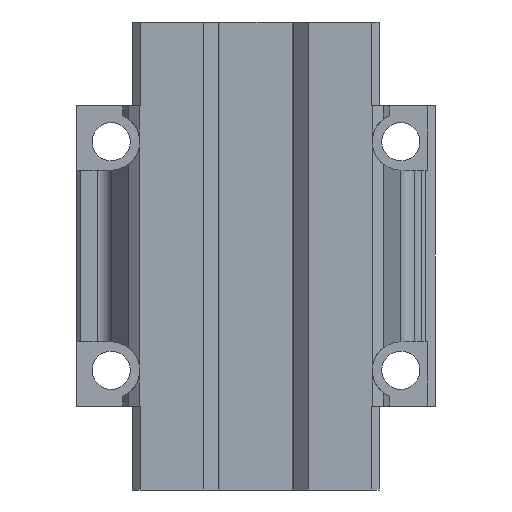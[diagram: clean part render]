
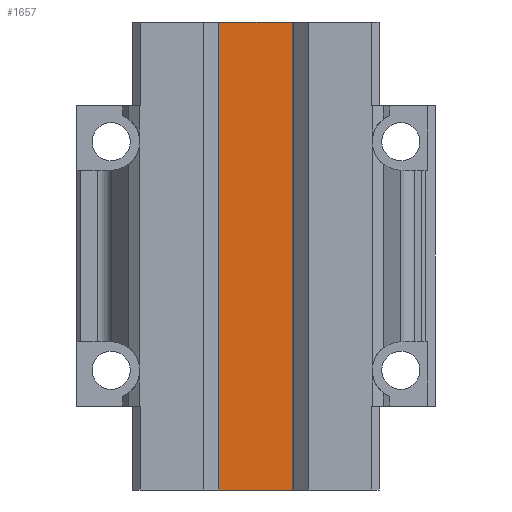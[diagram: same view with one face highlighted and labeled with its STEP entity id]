
A CAD part, front view. The second image highlights one B-rep face of the part: STEP entity #1657.
In plain terms, the highlighted planar face has unit normal (0, -1, 0).
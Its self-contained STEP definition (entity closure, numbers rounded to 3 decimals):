
#207 = EDGE_LOOP ( 'NONE', ( #5720, #2297, #1425, #2500 ) ) ;
#706 = CARTESIAN_POINT ( 'NONE',  ( -5.049, 0., 30.7 ) ) ;
#1242 = CARTESIAN_POINT ( 'NONE',  ( 5.049, 0., 30.7 ) ) ;
#1425 = ORIENTED_EDGE ( 'NONE', *, *, #6396, .F. ) ;
#1657 = ADVANCED_FACE ( 'NONE', ( #4747 ), #5724, .F. ) ;
#1771 = LINE ( 'NONE', #6991, #1945 ) ;
#1777 = DIRECTION ( 'NONE',  ( 0., 0., -1. ) ) ;
#1945 = VECTOR ( 'NONE', #2130, 1000. ) ;
#2130 = DIRECTION ( 'NONE',  ( 0., 0., -1. ) ) ;
#2297 = ORIENTED_EDGE ( 'NONE', *, *, #3711, .T. ) ;
#2368 = EDGE_CURVE ( 'NONE', #3878, #4891, #5505, .T. ) ;
#2462 = VECTOR ( 'NONE', #6899, 1000. ) ;
#2500 = ORIENTED_EDGE ( 'NONE', *, *, #2368, .F. ) ;
#2523 = EDGE_CURVE ( 'NONE', #3878, #3075, #1771, .T. ) ;
#2701 = LINE ( 'NONE', #3247, #3980 ) ;
#2951 = LINE ( 'NONE', #1242, #5653 ) ;
#2952 = CARTESIAN_POINT ( 'NONE',  ( -5.049, 0., 30.7 ) ) ;
#3075 = VERTEX_POINT ( 'NONE', #3599 ) ;
#3124 = CARTESIAN_POINT ( 'NONE',  ( 0., 0., 30.7 ) ) ;
#3247 = CARTESIAN_POINT ( 'NONE',  ( -5.049, 0., -30.7 ) ) ;
#3502 = AXIS2_PLACEMENT_3D ( 'NONE', #2952, #4994, #5773 ) ;
#3587 = CARTESIAN_POINT ( 'NONE',  ( 5.049, 0., 30.7 ) ) ;
#3599 = CARTESIAN_POINT ( 'NONE',  ( -5.049, 0., -30.7 ) ) ;
#3711 = EDGE_CURVE ( 'NONE', #3075, #4236, #2701, .T. ) ;
#3878 = VERTEX_POINT ( 'NONE', #706 ) ;
#3980 = VECTOR ( 'NONE', #6493, 1000. ) ;
#4236 = VERTEX_POINT ( 'NONE', #6657 ) ;
#4747 = FACE_OUTER_BOUND ( 'NONE', #207, .T. ) ;
#4891 = VERTEX_POINT ( 'NONE', #3587 ) ;
#4994 = DIRECTION ( 'NONE',  ( 0., 1., 0. ) ) ;
#5505 = LINE ( 'NONE', #3124, #2462 ) ;
#5653 = VECTOR ( 'NONE', #1777, 1000. ) ;
#5720 = ORIENTED_EDGE ( 'NONE', *, *, #2523, .T. ) ;
#5724 = PLANE ( 'NONE',  #3502 ) ;
#5773 = DIRECTION ( 'NONE',  ( -1., 0., 0. ) ) ;
#6396 = EDGE_CURVE ( 'NONE', #4891, #4236, #2951, .T. ) ;
#6493 = DIRECTION ( 'NONE',  ( 1., 0., 0. ) ) ;
#6657 = CARTESIAN_POINT ( 'NONE',  ( 5.049, 0., -30.7 ) ) ;
#6899 = DIRECTION ( 'NONE',  ( 1., 0., 0. ) ) ;
#6991 = CARTESIAN_POINT ( 'NONE',  ( -5.049, 0., 30.7 ) ) ;
